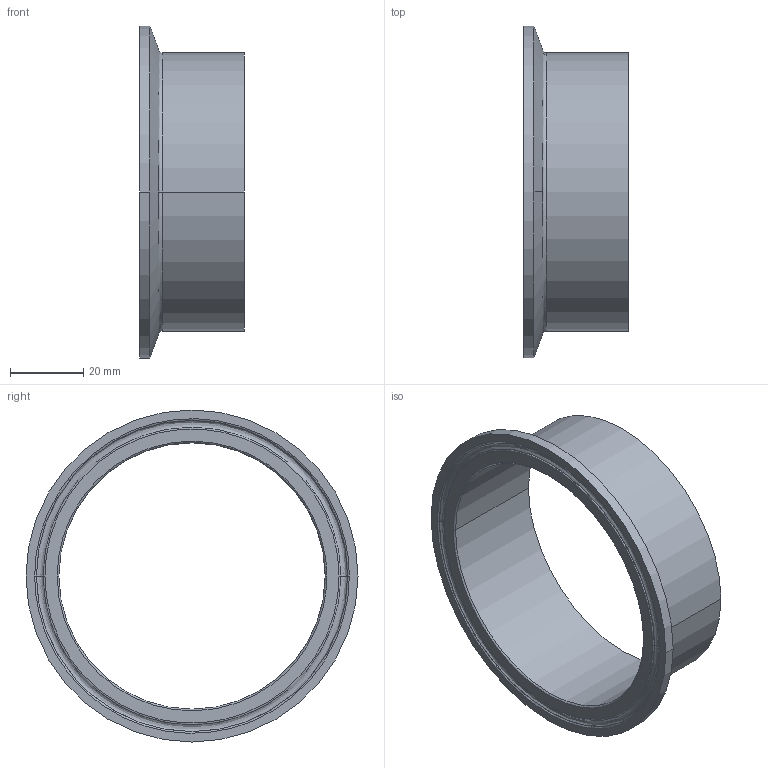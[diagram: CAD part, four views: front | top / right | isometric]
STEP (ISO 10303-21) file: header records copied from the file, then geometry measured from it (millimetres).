
FILE_DESCRIPTION (( 'STEP AP214' ), '1' );
FILE_NAME ('TEG14BM76L3.0.STEP', '2016-05-23T04:08:42', ( 'eran' ), ( '' ), 'SwSTEP 2.0', 'SolidWorks 2016', '' );
FILE_SCHEMA (( 'AUTOMOTIVE_DESIGN' ));
Length unit declared in the file: millimetre
Products named in the file (1): TEG14BM76L3.0
Bounding box: 28.7 x 90.91 x 90.91 mm (x, y, z)
Volume: 18765.6 mm3; surface area: 17759.7 mm2
Topology: 1 solids, 1 shells, 25 faces, 62 edges, 40 vertices
Faces by surface type: bspline 10, cylinder 6, cone 6, plane 3
Entity records: 1487 total; most frequent: CARTESIAN_POINT 862, DIRECTION 132, ORIENTED_EDGE 124, EDGE_CURVE 62, AXIS2_PLACEMENT_3D 60, CIRCLE 44, VERTEX_POINT 40, EDGE_LOOP 28
